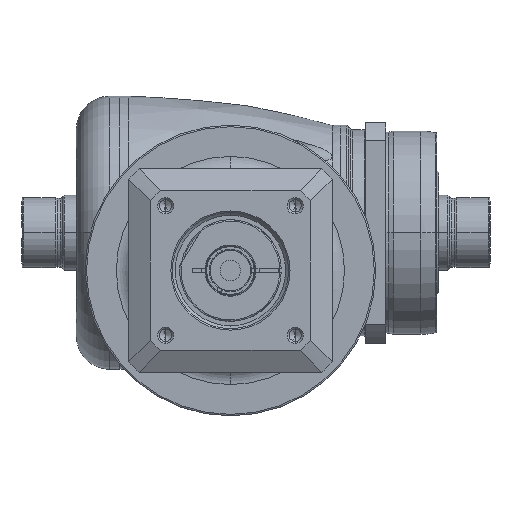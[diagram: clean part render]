
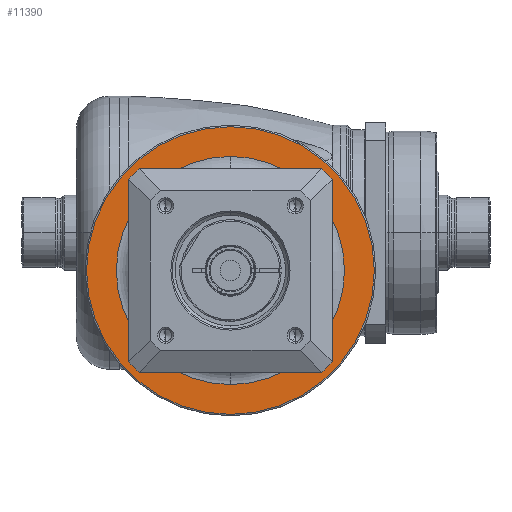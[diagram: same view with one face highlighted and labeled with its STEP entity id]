
A CAD part, front view. The second image highlights one B-rep face of the part: STEP entity #11390.
In plain terms, the highlighted planar face has unit normal (0, -1, 0) as drawn and (1, 0, 0) by its records, which use the part's own axes.
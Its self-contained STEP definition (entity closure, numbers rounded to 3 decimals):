
#10373=CARTESIAN_POINT('',(-9.,0.,0.));
#10374=DIRECTION('',(-1.,0.,0.));
#10375=DIRECTION('',(0.,-1.,0.));
#10376=AXIS2_PLACEMENT_3D('',#10373,#10374,#10375);
#10378=CARTESIAN_POINT('',(-9.,0.,0.));
#10379=DIRECTION('',(-1.,0.,0.));
#10380=DIRECTION('',(0.,1.,0.));
#10381=AXIS2_PLACEMENT_3D('',#10378,#10379,#10380);
#10383=CARTESIAN_POINT('',(-9.,0.,0.));
#10384=DIRECTION('',(-1.,0.,0.));
#10385=DIRECTION('',(0.,-1.,0.));
#10386=AXIS2_PLACEMENT_3D('',#10383,#10384,#10385);
#10388=CARTESIAN_POINT('',(-9.,0.,0.));
#10389=DIRECTION('',(-1.,0.,0.));
#10390=DIRECTION('',(0.,1.,0.));
#10391=AXIS2_PLACEMENT_3D('',#10388,#10389,#10390);
#10635=CARTESIAN_POINT('',(-9.,-49.5,0.));
#10636=CARTESIAN_POINT('',(-9.,49.5,0.));
#10637=VERTEX_POINT('',#10635);
#10638=VERTEX_POINT('',#10636);
#10693=CARTESIAN_POINT('',(-9.,-39.25,0.));
#10694=CARTESIAN_POINT('',(-9.,39.25,0.));
#10695=VERTEX_POINT('',#10693);
#10696=VERTEX_POINT('',#10694);
#11375=CARTESIAN_POINT('',(-9.,0.,0.));
#11376=DIRECTION('',(1.,0.,0.));
#11377=DIRECTION('',(0.,-1.,0.));
#11378=AXIS2_PLACEMENT_3D('',#11375,#11376,#11377);
#11379=PLANE('',#11378);
#11380=ORIENTED_EDGE('',*,*,#11307,.T.);
#11381=ORIENTED_EDGE('',*,*,#11292,.T.);
#11382=EDGE_LOOP('',(#11380,#11381));
#11383=FACE_OUTER_BOUND('',#11382,.F.);
#11385=ORIENTED_EDGE('',*,*,#11384,.F.);
#11387=ORIENTED_EDGE('',*,*,#11386,.F.);
#11388=EDGE_LOOP('',(#11385,#11387));
#11389=FACE_BOUND('',#11388,.F.);
#11390=ADVANCED_FACE('',(#11383,#11389),#11379,.T.);
#10377=CIRCLE('',#10376,39.25);
#10382=CIRCLE('',#10381,39.25);
#10387=CIRCLE('',#10386,49.5);
#10392=CIRCLE('',#10391,49.5);
#11292=EDGE_CURVE('',#10638,#10637,#10392,.T.);
#11307=EDGE_CURVE('',#10637,#10638,#10387,.T.);
#11384=EDGE_CURVE('',#10695,#10696,#10377,.T.);
#11386=EDGE_CURVE('',#10696,#10695,#10382,.T.);
